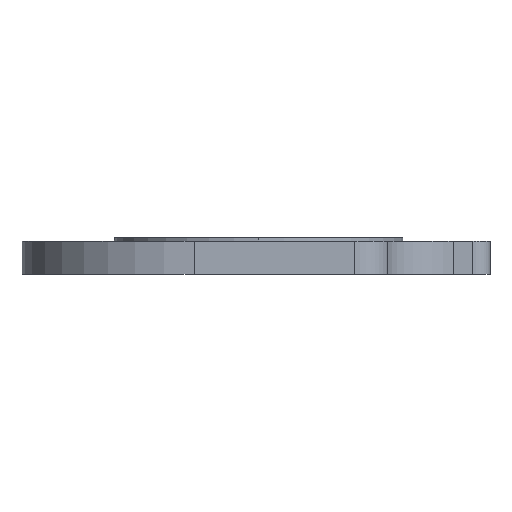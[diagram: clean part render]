
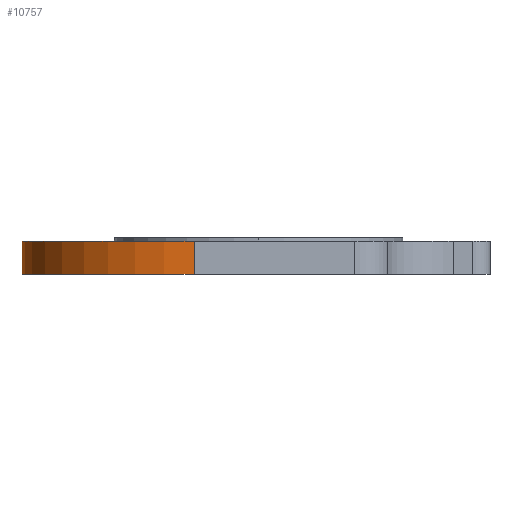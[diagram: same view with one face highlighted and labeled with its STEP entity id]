
A CAD part, left-side view. The second image highlights one B-rep face of the part: STEP entity #10757.
In plain terms, the highlighted cylindrical face has radius 15 mm (diameter 30 mm), a partial arc.
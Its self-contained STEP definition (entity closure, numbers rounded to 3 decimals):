
#106 = ORIENTED_EDGE ( 'NONE', *, *, #1220, .T. ) ;
#332 = CARTESIAN_POINT ( 'NONE',  ( 0.2, -69.4, -1.5 ) ) ;
#1220 = EDGE_CURVE ( 'NONE', #3269, #8184, #6647, .T. ) ;
#1900 = CARTESIAN_POINT ( 'NONE',  ( 15.2, -69.4, -7.1 ) ) ;
#1974 = LINE ( 'NONE', #4641, #9554 ) ;
#2314 = EDGE_CURVE ( 'NONE', #3827, #8515, #7648, .T. ) ;
#2670 = DIRECTION ( 'NONE',  ( 0., 0., 1. ) ) ;
#2787 = DIRECTION ( 'NONE',  ( 0., 0., 1. ) ) ;
#3269 = VERTEX_POINT ( 'NONE', #6604 ) ;
#3508 = DIRECTION ( 'NONE',  ( -1., 0., 0. ) ) ;
#3790 = AXIS2_PLACEMENT_3D ( 'NONE', #5474, #2670, #3508 ) ;
#3827 = VERTEX_POINT ( 'NONE', #9648 ) ;
#4641 = CARTESIAN_POINT ( 'NONE',  ( 0.2, -69.4, -7.1 ) ) ;
#5412 = VECTOR ( 'NONE', #9051, 1000. ) ;
#5474 = CARTESIAN_POINT ( 'NONE',  ( 15.2, -69.4, -4.4 ) ) ;
#5489 = EDGE_CURVE ( 'NONE', #3269, #3827, #8855, .T. ) ;
#5511 = CARTESIAN_POINT ( 'NONE',  ( 0.2, -69.4, -4.4 ) ) ;
#5718 = CYLINDRICAL_SURFACE ( 'NONE', #9187, 15. ) ;
#5781 = EDGE_LOOP ( 'NONE', ( #7583, #106, #8483, #8857 ) ) ;
#5853 = DIRECTION ( 'NONE',  ( 0., 0., 1. ) ) ;
#6604 = CARTESIAN_POINT ( 'NONE',  ( 15.2, -54.4, -4.4 ) ) ;
#6647 = CIRCLE ( 'NONE', #3790, 15. ) ;
#6949 = CARTESIAN_POINT ( 'NONE',  ( 15.2, -54.4, -7.1 ) ) ;
#7583 = ORIENTED_EDGE ( 'NONE', *, *, #5489, .F. ) ;
#7622 = FACE_OUTER_BOUND ( 'NONE', #5781, .T. ) ;
#7648 = CIRCLE ( 'NONE', #11924, 15. ) ;
#8155 = DIRECTION ( 'NONE',  ( 0., 0., 1. ) ) ;
#8184 = VERTEX_POINT ( 'NONE', #5511 ) ;
#8483 = ORIENTED_EDGE ( 'NONE', *, *, #9220, .T. ) ;
#8515 = VERTEX_POINT ( 'NONE', #332 ) ;
#8855 = LINE ( 'NONE', #6949, #5412 ) ;
#8857 = ORIENTED_EDGE ( 'NONE', *, *, #2314, .F. ) ;
#9051 = DIRECTION ( 'NONE',  ( 0., 0., 1. ) ) ;
#9187 = AXIS2_PLACEMENT_3D ( 'NONE', #1900, #2787, #10744 ) ;
#9220 = EDGE_CURVE ( 'NONE', #8184, #8515, #1974, .T. ) ;
#9243 = DIRECTION ( 'NONE',  ( 1., 0., 0. ) ) ;
#9554 = VECTOR ( 'NONE', #5853, 1000. ) ;
#9648 = CARTESIAN_POINT ( 'NONE',  ( 15.2, -54.4, -1.5 ) ) ;
#10744 = DIRECTION ( 'NONE',  ( 1., 0., 0. ) ) ;
#10757 = ADVANCED_FACE ( 'NONE', ( #7622 ), #5718, .T. ) ;
#11924 = AXIS2_PLACEMENT_3D ( 'NONE', #12179, #8155, #9243 ) ;
#12179 = CARTESIAN_POINT ( 'NONE',  ( 15.2, -69.4, -1.5 ) ) ;
